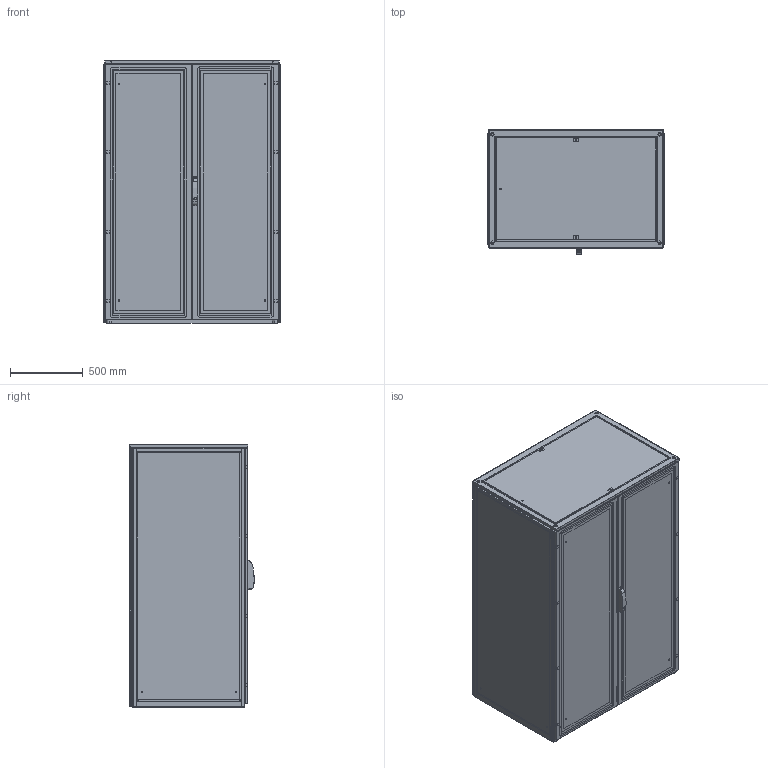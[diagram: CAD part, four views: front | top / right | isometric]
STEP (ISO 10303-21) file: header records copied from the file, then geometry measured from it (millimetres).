
FILE_DESCRIPTION(/* description */ ('STEP AP214'),/* implementation_level */ '2;1');
FILE_NAME(/* name */ 'ENUX121808PR -LOD350',/* time_stamp */ '2025-10-06T09:30:03+02:00',/* author */ ('License CC BY-ND 4.0'),/* organization */ ('CADENAS'),/* preprocessor_version */ 'ST-DEVELOPER v19.3',/* originating_system */ 'PARTsolutions',/* authorisation */ ' ');
FILE_SCHEMA (('AUTOMOTIVE_DESIGN {1 0 10303 214 3 1 1}'));
Length unit declared in the file: millimetre
Products named in the file (11): ENUX121808PR  -LOD350; ENUX121808PR  -LOD3501; ENUX121808PR  -LOD3507; ENUX121808PR  -LOD3502; ENUX121808PR  -LOD35011; ENUX121808PR  -LOD3503; ENUX121808PR  -LOD3508; ENUX121808PR  -LOD3505; ENUX121808PR  -LOD3504; ENUX121808PR  -LOD35010; ENUX121808PR  -LOD3509
Assembly tree (23 placements, depth 2):
  ENUX121808PR  -LOD350
    ENUX121808PR  -LOD3501
    ENUX121808PR  -LOD3507  x2
    ENUX121808PR  -LOD3502
    ENUX121808PR  -LOD35011
    ENUX121808PR  -LOD3503
    ENUX121808PR  -LOD3508
    ENUX121808PR  -LOD3505
    ENUX121808PR  -LOD3504
    ENUX121808PR  -LOD35010  x4
    ENUX121808PR  -LOD3509  x10
Bounding box: 1212 x 857 x 1808.5 mm (x, y, z)
Volume: 32163073.9 mm3; surface area: 26344806.8 mm2
Topology: 23 solids, 30 shells, 1788 faces, 4861 edges, 3188 vertices
Faces by surface type: plane 1098, cylinder 640, torus 30, cone 12, sphere 8
Full cylindrical faces by diameter (mm): 6 x15, 9 x13, 12 x4, 14 x2, 17 x2, 28 x2
Entity records: 36630 total; most frequent: CARTESIAN_POINT 6701, DIRECTION 6223, ORIENTED_EDGE 6118, EDGE_CURVE 3059, AXIS2_PLACEMENT_3D 2077, LINE 2069, VECTOR 2069, VERTEX_POINT 2022
